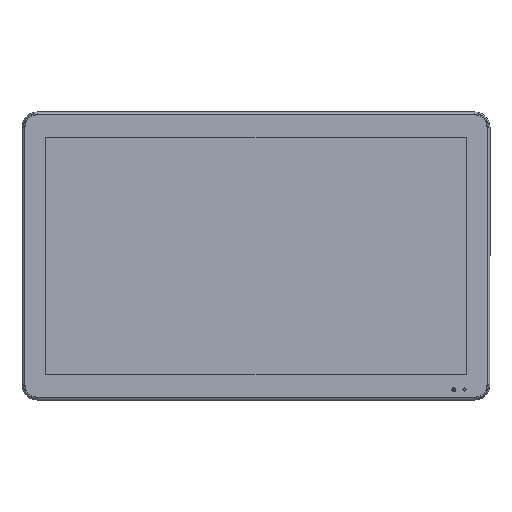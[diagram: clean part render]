
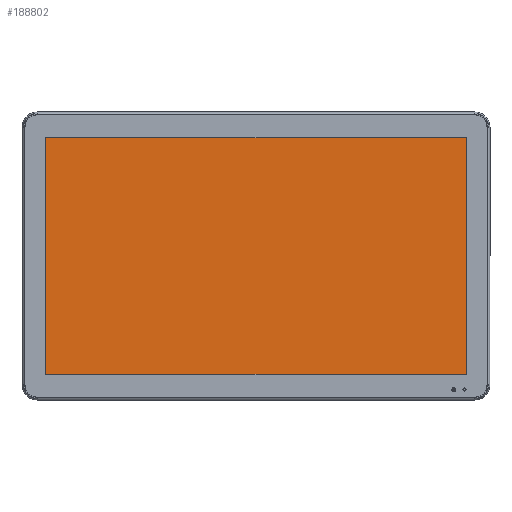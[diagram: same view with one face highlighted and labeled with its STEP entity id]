
A CAD part, top view. The second image highlights one B-rep face of the part: STEP entity #188802.
In plain terms, the highlighted planar face has unit normal (0, 0, 1) as drawn and (0, 1, 0) by its records, which use the part's own axes.
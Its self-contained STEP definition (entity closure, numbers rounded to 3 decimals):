
#2133 = VERTEX_POINT ( 'NONE', #11564 ) ;
#9853 = CARTESIAN_POINT ( 'NONE',  ( 238.4, 0.65, 133.9 ) ) ;
#11564 = CARTESIAN_POINT ( 'NONE',  ( -238.4, 0.65, -134.4 ) ) ;
#16094 = EDGE_CURVE ( 'NONE', #181156, #202208, #85300, .T. ) ;
#22480 = AXIS2_PLACEMENT_3D ( 'NONE', #224406, #128515, #295210 ) ;
#23919 = CARTESIAN_POINT ( 'NONE',  ( 238.9, 0.65, 133.9 ) ) ;
#24327 = CARTESIAN_POINT ( 'NONE',  ( -238.4, 0.65, -134.4 ) ) ;
#29053 = FACE_OUTER_BOUND ( 'NONE', #198158, .T. ) ;
#30607 = DIRECTION ( 'NONE',  ( 0., 0., 1. ) ) ;
#34148 = ORIENTED_EDGE ( 'NONE', *, *, #38930, .T. ) ;
#34567 = EDGE_CURVE ( 'NONE', #227201, #59323, #222415, .T. ) ;
#38930 = EDGE_CURVE ( 'NONE', #59323, #98187, #239704, .T. ) ;
#41657 = CARTESIAN_POINT ( 'NONE',  ( -238.4, 0.65, 133.9 ) ) ;
#58983 = EDGE_CURVE ( 'NONE', #221438, #2133, #246640, .T. ) ;
#59323 = VERTEX_POINT ( 'NONE', #137641 ) ;
#72103 = VECTOR ( 'NONE', #166792, 1000. ) ;
#77680 = PLANE ( 'NONE',  #304944 ) ;
#81384 = EDGE_CURVE ( 'NONE', #192976, #227201, #198839, .T. ) ;
#85300 = LINE ( 'NONE', #207430, #256834 ) ;
#88623 = CARTESIAN_POINT ( 'NONE',  ( 238.4, 0.65, -134.4 ) ) ;
#94253 = DIRECTION ( 'NONE',  ( -1., 0., 0. ) ) ;
#98187 = VERTEX_POINT ( 'NONE', #168337 ) ;
#104129 = ORIENTED_EDGE ( 'NONE', *, *, #217606, .T. ) ;
#110610 = CIRCLE ( 'NONE', #262075, 0.5 ) ;
#113559 = DIRECTION ( 'NONE',  ( 0., 1., 0. ) ) ;
#122414 = CARTESIAN_POINT ( 'NONE',  ( 238.4, 0.65, 133.9 ) ) ;
#123457 = DIRECTION ( 'NONE',  ( 0., 1., 0. ) ) ;
#127661 = DIRECTION ( 'NONE',  ( 0., 1., 0. ) ) ;
#128515 = DIRECTION ( 'NONE',  ( 0., 1., 0. ) ) ;
#137641 = CARTESIAN_POINT ( 'NONE',  ( 238.9, 0.65, 133.9 ) ) ;
#144977 = ORIENTED_EDGE ( 'NONE', *, *, #81384, .T. ) ;
#159246 = CARTESIAN_POINT ( 'NONE',  ( -238.4, 0.65, 134.4 ) ) ;
#163684 = EDGE_CURVE ( 'NONE', #2133, #181156, #251969, .T. ) ;
#166792 = DIRECTION ( 'NONE',  ( 0., 0., -1. ) ) ;
#168337 = CARTESIAN_POINT ( 'NONE',  ( 238.9, 0.65, -133.9 ) ) ;
#168487 = VECTOR ( 'NONE', #94253, 1000. ) ;
#172550 = AXIS2_PLACEMENT_3D ( 'NONE', #301785, #303830, #203983 ) ;
#173614 = DIRECTION ( 'NONE',  ( 0., 0., 1. ) ) ;
#174120 = ORIENTED_EDGE ( 'NONE', *, *, #259853, .T. ) ;
#181156 = VERTEX_POINT ( 'NONE', #212160 ) ;
#185748 = CARTESIAN_POINT ( 'NONE',  ( -238.9, 0.65, 133.9 ) ) ;
#188802 = ADVANCED_FACE ( 'NONE', ( #29053 ), #77680, .T. ) ;
#192976 = VERTEX_POINT ( 'NONE', #257744 ) ;
#198158 = EDGE_LOOP ( 'NONE', ( #262845, #34148, #174120, #272843, #232260, #212838, #104129, #144977 ) ) ;
#198839 = LINE ( 'NONE', #159246, #217590 ) ;
#202208 = VERTEX_POINT ( 'NONE', #185748 ) ;
#203983 = DIRECTION ( 'NONE',  ( 0., 0., -1. ) ) ;
#207430 = CARTESIAN_POINT ( 'NONE',  ( -238.9, 0.65, 133.9 ) ) ;
#212160 = CARTESIAN_POINT ( 'NONE',  ( -238.9, 0.65, -133.9 ) ) ;
#212838 = ORIENTED_EDGE ( 'NONE', *, *, #16094, .T. ) ;
#217590 = VECTOR ( 'NONE', #253185, 1000. ) ;
#217606 = EDGE_CURVE ( 'NONE', #202208, #192976, #110610, .T. ) ;
#221438 = VERTEX_POINT ( 'NONE', #88623 ) ;
#222415 = CIRCLE ( 'NONE', #296200, 0.5 ) ;
#224406 = CARTESIAN_POINT ( 'NONE',  ( 238.4, 0.65, -133.9 ) ) ;
#227201 = VERTEX_POINT ( 'NONE', #230931 ) ;
#230931 = CARTESIAN_POINT ( 'NONE',  ( 238.4, 0.65, 134.4 ) ) ;
#232260 = ORIENTED_EDGE ( 'NONE', *, *, #163684, .T. ) ;
#239704 = LINE ( 'NONE', #23919, #72103 ) ;
#246640 = LINE ( 'NONE', #24327, #168487 ) ;
#251969 = CIRCLE ( 'NONE', #172550, 0.5 ) ;
#253185 = DIRECTION ( 'NONE',  ( 1., 0., 0. ) ) ;
#256249 = DIRECTION ( 'NONE',  ( 0., 0., -1. ) ) ;
#256278 = DIRECTION ( 'NONE',  ( 0., 0., 1. ) ) ;
#256834 = VECTOR ( 'NONE', #256278, 1000. ) ;
#257744 = CARTESIAN_POINT ( 'NONE',  ( -238.4, 0.65, 134.4 ) ) ;
#259853 = EDGE_CURVE ( 'NONE', #98187, #221438, #295452, .T. ) ;
#262075 = AXIS2_PLACEMENT_3D ( 'NONE', #41657, #113559, #256249 ) ;
#262845 = ORIENTED_EDGE ( 'NONE', *, *, #34567, .T. ) ;
#272843 = ORIENTED_EDGE ( 'NONE', *, *, #58983, .T. ) ;
#295210 = DIRECTION ( 'NONE',  ( 0., 0., -1. ) ) ;
#295452 = CIRCLE ( 'NONE', #22480, 0.5 ) ;
#296200 = AXIS2_PLACEMENT_3D ( 'NONE', #122414, #123457, #30607 ) ;
#301785 = CARTESIAN_POINT ( 'NONE',  ( -238.4, 0.65, -133.9 ) ) ;
#303830 = DIRECTION ( 'NONE',  ( 0., 1., 0. ) ) ;
#304944 = AXIS2_PLACEMENT_3D ( 'NONE', #9853, #127661, #173614 ) ;
